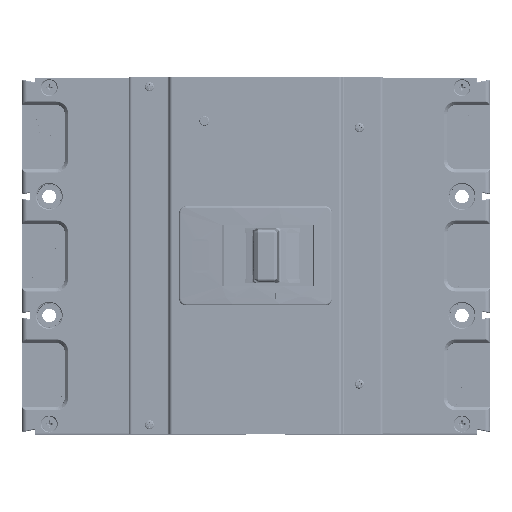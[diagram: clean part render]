
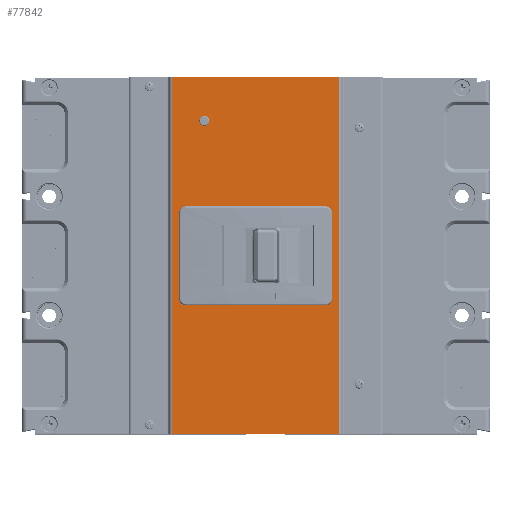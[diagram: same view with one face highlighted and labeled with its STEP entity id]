
A CAD part, top view. The second image highlights one B-rep face of the part: STEP entity #77842.
In plain terms, the highlighted planar face has unit normal (0, 0, 1).
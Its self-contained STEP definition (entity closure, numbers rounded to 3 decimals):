
#31 = CARTESIAN_POINT ( 'NONE',  ( -138.616, 186.399, 106.9 ) ) ;
#394 = CARTESIAN_POINT ( 'NONE',  ( -7.216, 96.397, 106.9 ) ) ;
#698 = DIRECTION ( 'NONE',  ( 0., 0., 1. ) ) ;
#1390 = EDGE_CURVE ( 'NONE', #65984, #50775, #35336, .T. ) ;
#1477 = CARTESIAN_POINT ( 'NONE',  ( -61.616, 96.397, 106.9 ) ) ;
#1878 = CARTESIAN_POINT ( 'NONE',  ( -138.616, 182.397, 106.9 ) ) ;
#2513 = EDGE_CURVE ( 'NONE', #92899, #62933, #48486, .T. ) ;
#3011 = DIRECTION ( 'NONE',  ( 0., -1., 0. ) ) ;
#4055 = EDGE_CURVE ( 'NONE', #104863, #106087, #78183, .T. ) ;
#5149 = VERTEX_POINT ( 'NONE', #83199 ) ;
#9586 = DIRECTION ( 'NONE',  ( 0., 1., 0. ) ) ;
#11697 = CARTESIAN_POINT ( 'NONE',  ( -141.415, 210.197, 106.9 ) ) ;
#17024 = CIRCLE ( 'NONE', #65109, 4. ) ;
#17611 = CARTESIAN_POINT ( 'NONE',  ( -61.616, 178.397, 106.9 ) ) ;
#17887 = EDGE_LOOP ( 'NONE', ( #22192, #35253, #41722, #38675, #70526, #67730, #103838, #98732 ) ) ;
#18573 = LINE ( 'NONE', #44635, #24191 ) ;
#19078 = AXIS2_PLACEMENT_3D ( 'NONE', #17611, #67744, #21617 ) ;
#19545 = VECTOR ( 'NONE', #53285, 1000. ) ;
#20884 = AXIS2_PLACEMENT_3D ( 'NONE', #62625, #698, #79409 ) ;
#21521 = CARTESIAN_POINT ( 'NONE',  ( 68.584, 88.395, 106.9 ) ) ;
#21617 = DIRECTION ( 'NONE',  ( 0., 1., 0. ) ) ;
#22192 = ORIENTED_EDGE ( 'NONE', *, *, #63216, .F. ) ;
#22847 = DIRECTION ( 'NONE',  ( 1., 0., 0. ) ) ;
#23431 = VERTEX_POINT ( 'NONE', #105227 ) ;
#23762 = EDGE_CURVE ( 'NONE', #5149, #23431, #24131, .T. ) ;
#24131 = LINE ( 'NONE', #76237, #35190 ) ;
#24191 = VECTOR ( 'NONE', #89175, 1000. ) ;
#32377 = CARTESIAN_POINT ( 'NONE',  ( -138.616, 186.399, 106.9 ) ) ;
#33708 = CARTESIAN_POINT ( 'NONE',  ( -11.216, 96.397, 106.9 ) ) ;
#35190 = VECTOR ( 'NONE', #67540, 1000. ) ;
#35253 = ORIENTED_EDGE ( 'NONE', *, *, #2513, .F. ) ;
#35317 = CARTESIAN_POINT ( 'NONE',  ( 68.585, 210.194, 106.9 ) ) ;
#35336 = LINE ( 'NONE', #31, #19545 ) ;
#37961 = ORIENTED_EDGE ( 'NONE', *, *, #76394, .T. ) ;
#38632 = VECTOR ( 'NONE', #3011, 1000. ) ;
#38675 = ORIENTED_EDGE ( 'NONE', *, *, #102426, .F. ) ;
#39082 = CIRCLE ( 'NONE', #40981, 4. ) ;
#39347 = FACE_OUTER_BOUND ( 'NONE', #47803, .T. ) ;
#40003 = VERTEX_POINT ( 'NONE', #71210 ) ;
#40981 = AXIS2_PLACEMENT_3D ( 'NONE', #1477, #107942, #9586 ) ;
#41306 = CIRCLE ( 'NONE', #19078, 4. ) ;
#41722 = ORIENTED_EDGE ( 'NONE', *, *, #49845, .F. ) ;
#44635 = CARTESIAN_POINT ( 'NONE',  ( -138.616, 92.397, 106.9 ) ) ;
#47803 = EDGE_LOOP ( 'NONE', ( #102580, #49930, #37961, #95352 ) ) ;
#48486 = LINE ( 'NONE', #83776, #110337 ) ;
#49192 = PLANE ( 'NONE',  #96011 ) ;
#49585 = CARTESIAN_POINT ( 'NONE',  ( -141.417, 88.397, 106.9 ) ) ;
#49845 = EDGE_CURVE ( 'NONE', #74697, #92899, #17024, .T. ) ;
#49930 = ORIENTED_EDGE ( 'NONE', *, *, #1390, .F. ) ;
#50433 = VECTOR ( 'NONE', #81178, 1000. ) ;
#50481 = EDGE_CURVE ( 'NONE', #95706, #61745, #64379, .T. ) ;
#50775 = VERTEX_POINT ( 'NONE', #56284 ) ;
#51580 = CARTESIAN_POINT ( 'NONE',  ( -138.617, 88.397, 106.9 ) ) ;
#53285 = DIRECTION ( 'NONE',  ( 1., 0., 0. ) ) ;
#55822 = CARTESIAN_POINT ( 'NONE',  ( -61.616, 182.397, 106.9 ) ) ;
#56284 = CARTESIAN_POINT ( 'NONE',  ( 68.585, 186.396, 106.9 ) ) ;
#56458 = EDGE_CURVE ( 'NONE', #23431, #40003, #39082, .T. ) ;
#60248 = EDGE_CURVE ( 'NONE', #61745, #5149, #41306, .T. ) ;
#61745 = VERTEX_POINT ( 'NONE', #55822 ) ;
#62625 = CARTESIAN_POINT ( 'NONE',  ( -11.216, 178.397, 106.9 ) ) ;
#62933 = VERTEX_POINT ( 'NONE', #89785 ) ;
#63216 = EDGE_CURVE ( 'NONE', #62933, #95706, #70782, .T. ) ;
#64379 = LINE ( 'NONE', #1878, #50433 ) ;
#65109 = AXIS2_PLACEMENT_3D ( 'NONE', #33708, #86940, #104858 ) ;
#65984 = VERTEX_POINT ( 'NONE', #77471 ) ;
#67540 = DIRECTION ( 'NONE',  ( 0., -1., 0. ) ) ;
#67646 = CARTESIAN_POINT ( 'NONE',  ( -11.216, 92.397, 106.9 ) ) ;
#67730 = ORIENTED_EDGE ( 'NONE', *, *, #23762, .F. ) ;
#67744 = DIRECTION ( 'NONE',  ( 0., 0., 1. ) ) ;
#69841 = VECTOR ( 'NONE', #22847, 1000. ) ;
#70526 = ORIENTED_EDGE ( 'NONE', *, *, #56458, .F. ) ;
#70782 = CIRCLE ( 'NONE', #20884, 4. ) ;
#71210 = CARTESIAN_POINT ( 'NONE',  ( -61.616, 92.397, 106.9 ) ) ;
#74697 = VERTEX_POINT ( 'NONE', #67646 ) ;
#76237 = CARTESIAN_POINT ( 'NONE',  ( -65.616, 186.399, 106.9 ) ) ;
#76394 = EDGE_CURVE ( 'NONE', #65984, #104863, #90975, .T. ) ;
#77471 = CARTESIAN_POINT ( 'NONE',  ( -141.416, 186.399, 106.9 ) ) ;
#77842 = ADVANCED_FACE ( 'NONE', ( #100681, #39347 ), #49192, .T. ) ;
#78183 = LINE ( 'NONE', #51580, #69841 ) ;
#79409 = DIRECTION ( 'NONE',  ( 0., 1., 0. ) ) ;
#81178 = DIRECTION ( 'NONE',  ( -1., 0., 0. ) ) ;
#83199 = CARTESIAN_POINT ( 'NONE',  ( -65.616, 178.397, 106.9 ) ) ;
#83776 = CARTESIAN_POINT ( 'NONE',  ( -7.216, 186.399, 106.9 ) ) ;
#83911 = DIRECTION ( 'NONE',  ( 0., 1., 0. ) ) ;
#84325 = CARTESIAN_POINT ( 'NONE',  ( -11.216, 182.397, 106.9 ) ) ;
#86940 = DIRECTION ( 'NONE',  ( 0., 0., 1. ) ) ;
#89175 = DIRECTION ( 'NONE',  ( 1., 0., 0. ) ) ;
#89700 = DIRECTION ( 'NONE',  ( 0., -1., 0. ) ) ;
#89785 = CARTESIAN_POINT ( 'NONE',  ( -7.216, 178.397, 106.9 ) ) ;
#90975 = LINE ( 'NONE', #11697, #38632 ) ;
#92899 = VERTEX_POINT ( 'NONE', #394 ) ;
#93706 = DIRECTION ( 'NONE',  ( 0., 0., 1. ) ) ;
#95352 = ORIENTED_EDGE ( 'NONE', *, *, #4055, .T. ) ;
#95706 = VERTEX_POINT ( 'NONE', #84325 ) ;
#96011 = AXIS2_PLACEMENT_3D ( 'NONE', #32377, #93706, #83911 ) ;
#98732 = ORIENTED_EDGE ( 'NONE', *, *, #50481, .F. ) ;
#98948 = LINE ( 'NONE', #35317, #113217 ) ;
#100681 = FACE_BOUND ( 'NONE', #17887, .T. ) ;
#102426 = EDGE_CURVE ( 'NONE', #40003, #74697, #18573, .T. ) ;
#102580 = ORIENTED_EDGE ( 'NONE', *, *, #106597, .F. ) ;
#103838 = ORIENTED_EDGE ( 'NONE', *, *, #60248, .F. ) ;
#104858 = DIRECTION ( 'NONE',  ( 0., 1., 0. ) ) ;
#104863 = VERTEX_POINT ( 'NONE', #49585 ) ;
#105227 = CARTESIAN_POINT ( 'NONE',  ( -65.616, 96.397, 106.9 ) ) ;
#106087 = VERTEX_POINT ( 'NONE', #21521 ) ;
#106597 = EDGE_CURVE ( 'NONE', #50775, #106087, #98948, .T. ) ;
#107942 = DIRECTION ( 'NONE',  ( 0., 0., 1. ) ) ;
#110337 = VECTOR ( 'NONE', #112646, 1000. ) ;
#112646 = DIRECTION ( 'NONE',  ( 0., 1., 0. ) ) ;
#113217 = VECTOR ( 'NONE', #89700, 1000. ) ;
